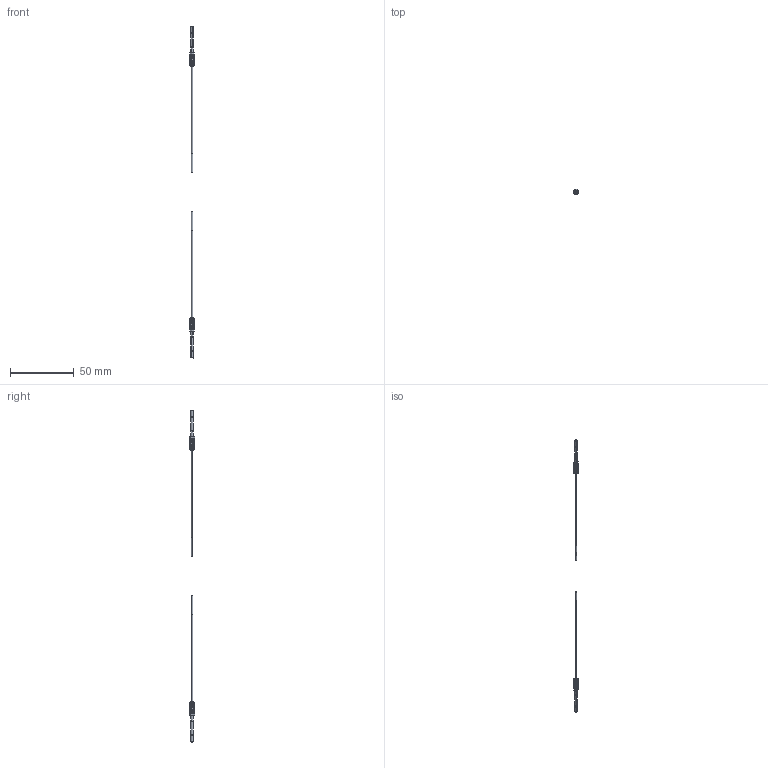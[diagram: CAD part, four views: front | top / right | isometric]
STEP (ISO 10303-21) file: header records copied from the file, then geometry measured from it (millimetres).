
FILE_DESCRIPTION (( 'STEP AP214' ), '1' );
FILE_NAME ('FTC-1520-05.STEP', '2019-06-18T02:26:38', ( '' ), ( '' ), 'SwSTEP 2.0', 'SolidWorks 2018', '' );
FILE_SCHEMA (( 'AUTOMOTIVE_DESIGN' ));
Length unit declared in the file: millimetre
Products named in the file (1): FTC-1520-05
Bounding box: 4 x 4 x 260 mm (x, y, z)
Volume: 527.6 mm3; surface area: 1580.6 mm2
Topology: 4 solids, 4 shells, 190 faces, 428 edges, 260 vertices
Faces by surface type: plane 106, cylinder 64, torus 12, cone 8
Entity records: 5509 total; most frequent: CARTESIAN_POINT 1167, DIRECTION 890, ORIENTED_EDGE 856, EDGE_CURVE 428, AXIS2_PLACEMENT_3D 367, VERTEX_POINT 260, EDGE_LOOP 208, ADVANCED_FACE 190
